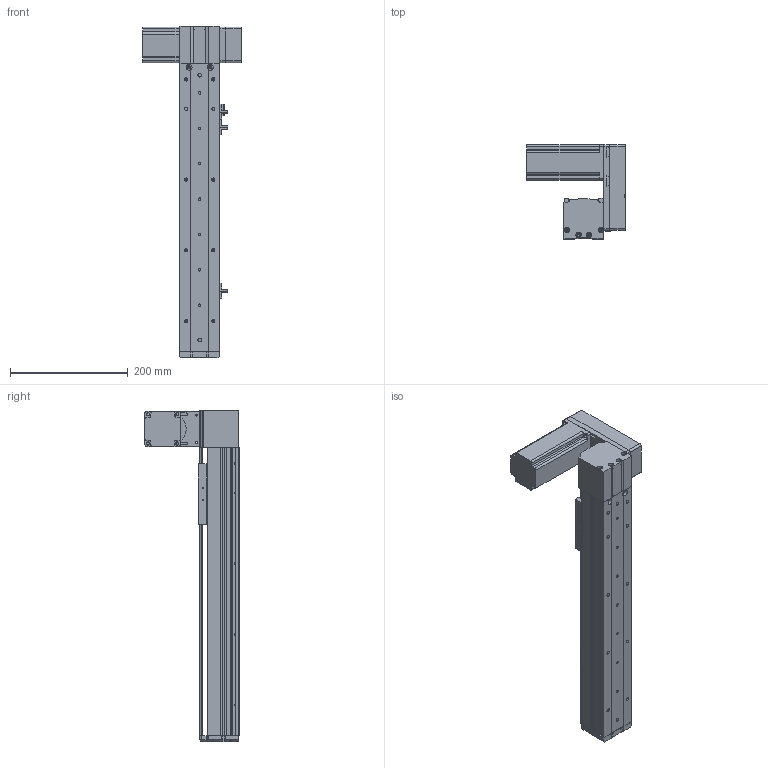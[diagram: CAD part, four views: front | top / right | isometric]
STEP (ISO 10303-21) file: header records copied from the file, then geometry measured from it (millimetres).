
FILE_DESCRIPTION (( 'STEP AP214' ), '1' );
FILE_NAME ('KSD68BS-S300-MLU-CM.STEP', '2019-08-22T02:25:54', ( '微软用户' ), ( '微软中国' ), 'SwSTEP 2.0', 'SolidWorks 2014', '' );
FILE_SCHEMA (( 'AUTOMOTIVE_DESIGN' ));
Length unit declared in the file: millimetre
Products named in the file (11): KSD68BS半封闭同步带传动导轨座; U倰嫖萇EEㄜSX672; 台达ECMA－C20604AS伺服电机（400W); KSD68BS 300俴最菁啣圉猾敕; KSD68BS-S300-MLU-CM; 悵誘欶奻狟殏; 68宽马达安装板连板上折同步带; 68宽单导轨半封闭同步带主动轮座左; 68单导轨同步带半封闭端板; KSD68BS 300俴最裔啣圉猾敕; 覜茼え68遵圉猾敕
Assembly tree (12 placements, depth 2):
  KSD68BS-S300-MLU-CM
    KSD68BS 300俴最菁啣圉猾敕
    台达ECMA－C20604AS伺服电机（400W)
    U倰嫖萇EEㄜSX672  x3
    KSD68BS半封闭同步带传动导轨座
    覜茼え68遵圉猾敕
    KSD68BS 300俴最裔啣圉猾敕
    68单导轨同步带半封闭端板
    68宽单导轨半封闭同步带主动轮座左
    68宽马达安装板连板上折同步带
    悵誘欶奻狟殏
Bounding box: 167.2 x 159.5 x 562 mm (x, y, z)
Volume: 1486949.6 mm3; surface area: 459606.6 mm2
Topology: 13 solids, 13 shells, 1242 faces, 3508 edges, 2276 vertices
Faces by surface type: cylinder 590, plane 569, cone 83
Entity records: 43292 total; most frequent: CARTESIAN_POINT 7822, DIRECTION 5812, ORIENTED_EDGE 5768, EDGE_CURVE 2884, AXIS2_PLACEMENT_3D 2074, VERTEX_POINT 1900, LINE 1664, VECTOR 1664
